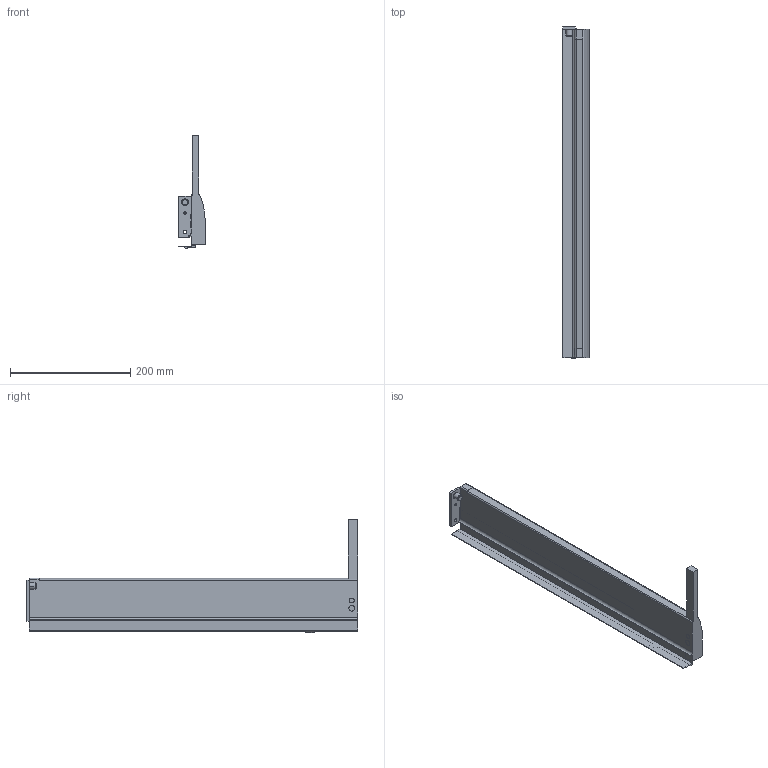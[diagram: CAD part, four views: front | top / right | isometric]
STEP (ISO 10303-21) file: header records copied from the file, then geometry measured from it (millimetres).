
FILE_DESCRIPTION (( 'STEP AP214' ), '1' );
FILE_NAME ('_IMOS_NOVA-Pro_Crystal_Dekor-H90_DL_NL550_RE.step', '2010-07-14T12:43:14', ( 'grass' ), ( '' ), 'SwSTEP 2.0', 'SolidWorks 2009', '' );
FILE_SCHEMA (( 'AUTOMOTIVE_DESIGN' ));
Length unit declared in the file: millimetre
Products named in the file (1): _IMOS_NOVA-Pro_Crystal_Dekor-H90_DL_NL550_RE
Bounding box: 44.3 x 552.7 x 188.49 mm (x, y, z)
Volume: 614373.9 mm3; surface area: 193656 mm2
Topology: 1 solids, 1 shells, 87 faces, 235 edges, 155 vertices
Faces by surface type: plane 55, cylinder 27, cone 4, bspline 1
Entity records: 2781 total; most frequent: CARTESIAN_POINT 499, ORIENTED_EDGE 470, DIRECTION 466, EDGE_CURVE 235, LINE 174, VECTOR 174, VERTEX_POINT 155, AXIS2_PLACEMENT_3D 146
